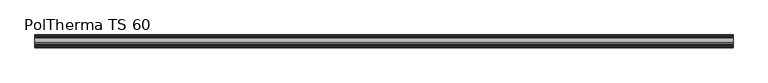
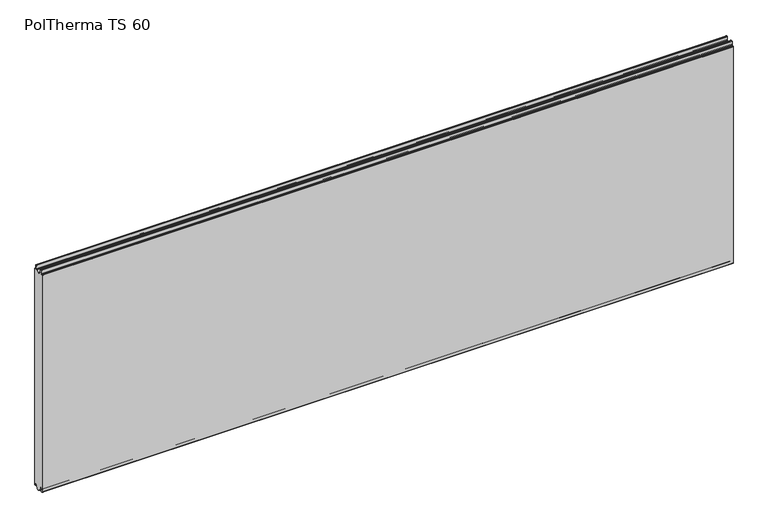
"""IFC4 building model written with IfcOpenShell, lengths in millimetres: plate geometry, Europanels_Poltherma TS_Hz : PolTherma TS 60."""

from ifc_helpers import new_model, si_unit, frame, origin, place, context, project, spatial, polyline, circle_curve, source, transform, mapped, element, save
from ifc_brep_helpers import plane_surface, cylinder_surface, revolved_surface, advanced_brep


def poltherma_ts_60_a74884d3(model_context):
    return source(origin(), model_context, "Body", "AdvancedBrep", [
        advanced_brep(
        [(1650.0, -30.0, 1096.5011047), (1650.0, -30.0, 3.4988953), (1650.0, -28.0, 1.4988953), (1650.0, -25.2751521, 1.4988953), (1650.0, -23.2780726, 3.3908514), (1650.0, -22.3165207, 21.1641379), (1650.0, -19.3209015, 24.0020721), (1650.0, -16.3793238, 24.0020721), (1650.0, -13.3842966, 21.1747334), (1650.0, -12.3477941, 3.1952985), (1650.0, -10.5507777, 1.4988953), (1650.0, -7.1267156, 1.4988953), (1650.0, 12.5267156, 1.4988953), (1650.0, 14.9895357, 1.4988953), (1650.0, 16.7366349, 3.1481762), (1650.0, 17.7718427, 21.1051522), (1650.0, 24.3282622, 21.093556), (1650.0, 25.2663769, 3.7534806), (1650.0, 30.0, 3.8814338), (1650.0, 30.0, 1096.5011047), (1650.0, 28.0, 1098.5011047), (1650.0, 26.2557869, 1098.5011047), (1650.0, 24.2596673, 1100.3765791), (1650.0, 23.1836057, 1117.6256302), (1650.0, 20.8891901, 1119.5129093), (1650.0, 18.8727407, 1117.5838246), (1650.0, 18.1120505, 1100.4152514), (1650.0, 16.113894, 1098.5011047), (1650.0, 13.3234285, 1098.5011047), (1650.0, -7.9234285, 1098.5011047), (1650.0, -11.9117672, 1098.5011047), (1650.0, -13.7101357, 1100.2244834), (1650.0, -14.4498501, 1117.5862394), (1650.0, -16.4480373, 1119.5011047), (1650.0, -19.1874198, 1119.5011047), (1650.0, -21.1836192, 1117.624345), (1650.0, -22.2483736, 1100.3778643), (1650.0, -24.244573, 1098.5011047), (1650.0, -28.0, 1098.5011047), (-1650.0, -30.0, 1096.5011047), (-1650.0, -28.0, 1098.5011047), (-1650.0, -24.244573, 1098.5011047), (-1650.0, -22.2483736, 1100.3778643), (-1650.0, -21.1836192, 1117.624345), (-1650.0, -19.1874198, 1119.5011047), (-1650.0, -16.4480373, 1119.5011047), (-1650.0, -14.4498501, 1117.5862394), (-1650.0, -13.7101357, 1100.2244834), (-1650.0, -11.9117672, 1098.5011047), (-1650.0, -7.9234285, 1098.5011047), (-1650.0, 13.3234285, 1098.5011047), (-1650.0, 16.113894, 1098.5011047), (-1650.0, 18.1120505, 1100.4152514), (-1650.0, 18.8727407, 1117.5838246), (-1650.0, 20.8891901, 1119.5129093), (-1650.0, 23.1349611, 1117.6366155), (-1650.0, 24.2596673, 1100.3765791), (-1650.0, 26.2557869, 1098.5011047), (-1650.0, 28.0, 1098.5011047), (-1650.0, 30.0, 1096.5011047), (-1650.0, 30.0, 3.8814338), (-1650.0, 25.2663769, 3.7534806), (-1650.0, 24.3282622, 21.093556), (-1650.0, 17.7718427, 21.1051522), (-1650.0, 16.7366349, 3.1481762), (-1650.0, 14.9895357, 1.4988953), (-1650.0, 12.5267156, 1.4988953), (-1650.0, -7.1267156, 1.4988953), (-1650.0, -10.5507777, 1.4988953), (-1650.0, -12.3477941, 3.1952985), (-1650.0, -13.3842966, 21.1747334), (-1650.0, -16.3793238, 24.0020721), (-1650.0, -19.3209015, 24.0020721), (-1650.0, -22.3165207, 21.1641379), (-1650.0, -23.2780726, 3.3908514), (-1650.0, -25.2751521, 1.4988953), (-1650.0, -28.0, 1.4988953), (-1650.0, -30.0, 3.4988953)],
        [
            (0, 1),
            (1, 2, circle_curve(frame((1650.0, -28.0, 3.4988953), z_axis=(1.0, 0.0, 0.0), x_axis=(0.0, 1.0, 0.0)), 2.0)),
            (2, 3),
            (3, 4, circle_curve(frame((1650.0, -25.2751521, 3.4988953), z_axis=(1.0, 0.0, 0.0), x_axis=(0.0, 1.0, 0.0)), 2.0)),
            (4, 5),
            (5, 6, circle_curve(frame((1650.0, -19.3209015, 21.0020721), z_axis=(-1.0, 0.0, 0.0), x_axis=(0.0, 1.0, 0.0)), 3.0)),
            (6, 7),
            (7, 8, circle_curve(frame((1650.0, -16.3793238, 21.0020721), z_axis=(-1.0, 0.0, 0.0), x_axis=(0.0, 1.0, 0.0)), 3.0)),
            (8, 9),
            (9, 10, circle_curve(frame((1650.0, -10.5507777, 3.2988953), z_axis=(1.0, 0.0, 0.0), x_axis=(0.0, 1.0, 0.0)), 1.8)),
            (10, 11),
            (11, 12, circle_curve(frame((1650.0, 2.7, 3.3524487), z_axis=(1.0, 0.0, 0.0), x_axis=(0.0, 1.0, 0.0)), 10.0)),
            (12, 13),
            (13, 14, circle_curve(frame((1650.0, 14.9895357, 3.2488953), z_axis=(1.0, 0.0, 0.0), x_axis=(0.0, 1.0, 0.0)), 1.75)),
            (14, 15),
            (15, 16, circle_curve(frame((1650.0, 21.0497285, 20.9161842), z_axis=(-1.0, 0.0, 0.0), x_axis=(0.0, 1.0, 0.0)), 3.2833282)),
            (16, 17),
            (17, 18, circle_curve(frame((1650.0, 27.6314591, 3.8814338), z_axis=(1.0, 0.0, 0.0), x_axis=(0.0, 1.0, 0.0)), 2.3685409)),
            (18, 19),
            (19, 20, circle_curve(frame((1650.0, 28.0, 1096.5011047), z_axis=(1.0, 0.0, 0.0), x_axis=(0.0, 1.0, 0.0)), 2.0)),
            (20, 21),
            (21, 22, circle_curve(frame((1650.0, 26.2557869, 1100.5011047), z_axis=(-1.0, 0.0, 0.0), x_axis=(0.0, 1.0, 0.0)), 2.0)),
            (22, 23),
            (23, 24, circle_curve(frame((1650.0, 21.1234323, 1117.5111287), z_axis=(1.0, 0.0, 0.0), x_axis=(0.0, 1.0, 0.0)), 2.0154391)),
            (24, 25, circle_curve(frame((1650.0, 20.8891901, 1117.4944815), z_axis=(1.0, 0.0, 0.0), x_axis=(0.0, 1.0, 0.0)), 2.0184277)),
            (25, 26),
            (26, 27, circle_curve(frame((1650.0, 16.113894, 1100.5011047), z_axis=(-1.0, 0.0, 0.0), x_axis=(0.0, 1.0, 0.0)), 2.0)),
            (27, 28),
            (28, 29, circle_curve(frame((1650.0, 2.7, 1101.354658), z_axis=(-1.0, 0.0, 0.0), x_axis=(0.0, 1.0, 0.0)), 11.0)),
            (29, 30),
            (30, 31, circle_curve(frame((1650.0, -11.9117672, 1100.3011047), z_axis=(-1.0, 0.0, 0.0), x_axis=(0.0, 1.0, 0.0)), 1.8)),
            (31, 32),
            (32, 33, circle_curve(frame((1650.0, -16.4480373, 1117.5011047), z_axis=(1.0, 0.0, 0.0), x_axis=(0.0, 1.0, 0.0)), 2.0)),
            (33, 34),
            (34, 35, circle_curve(frame((1650.0, -19.1874198, 1117.5011047), z_axis=(1.0, 0.0, 0.0), x_axis=(0.0, 1.0, 0.0)), 2.0)),
            (35, 36),
            (36, 37, circle_curve(frame((1650.0, -24.244573, 1100.5011047), z_axis=(-1.0, 0.0, 0.0), x_axis=(0.0, 1.0, 0.0)), 2.0)),
            (37, 38),
            (38, 0, circle_curve(frame((1650.0, -28.0, 1096.5011047), z_axis=(1.0, 0.0, 0.0), x_axis=(0.0, 1.0, 0.0)), 2.0)),
            (39, 40, circle_curve(frame((-1650.0, -28.0, 1096.5011047), z_axis=(-1.0, 0.0, 0.0), x_axis=(0.0, 1.0, 0.0)), 2.0)),
            (40, 41),
            (41, 42, circle_curve(frame((-1650.0, -24.244573, 1100.5011047), z_axis=(1.0, 0.0, 0.0), x_axis=(0.0, 1.0, 0.0)), 2.0)),
            (42, 43),
            (43, 44, circle_curve(frame((-1650.0, -19.1874198, 1117.5011047), z_axis=(-1.0, 0.0, 0.0), x_axis=(0.0, 1.0, 0.0)), 2.0)),
            (44, 45),
            (45, 46, circle_curve(frame((-1650.0, -16.4480373, 1117.5011047), z_axis=(-1.0, 0.0, 0.0), x_axis=(0.0, 1.0, 0.0)), 2.0)),
            (46, 47),
            (47, 48, circle_curve(frame((-1650.0, -11.9117672, 1100.3011047), z_axis=(1.0, 0.0, 0.0), x_axis=(0.0, 1.0, 0.0)), 1.8)),
            (48, 49),
            (49, 50, circle_curve(frame((-1650.0, 2.7, 1101.354658), z_axis=(1.0, 0.0, 0.0), x_axis=(0.0, 1.0, 0.0)), 11.0)),
            (50, 51),
            (51, 52, circle_curve(frame((-1650.0, 16.113894, 1100.5011047), z_axis=(1.0, 0.0, 0.0), x_axis=(0.0, 1.0, 0.0)), 2.0)),
            (52, 53),
            (53, 54, circle_curve(frame((-1650.0, 20.8891901, 1117.4944815), z_axis=(-1.0, 0.0, 0.0), x_axis=(0.0, 1.0, 0.0)), 2.0184277)),
            (54, 55, circle_curve(frame((-1650.0, 21.1234323, 1117.5111287), z_axis=(-1.0, 0.0, 0.0), x_axis=(0.0, 1.0, 0.0)), 2.0154391)),
            (55, 56),
            (56, 57, circle_curve(frame((-1650.0, 26.2557869, 1100.5011047), z_axis=(1.0, 0.0, 0.0), x_axis=(0.0, 1.0, 0.0)), 2.0)),
            (57, 58),
            (58, 59, circle_curve(frame((-1650.0, 28.0, 1096.5011047), z_axis=(-1.0, 0.0, 0.0), x_axis=(0.0, 1.0, 0.0)), 2.0)),
            (59, 60),
            (60, 61, circle_curve(frame((-1650.0, 27.6314591, 3.8814338), z_axis=(-1.0, 0.0, 0.0), x_axis=(0.0, 1.0, 0.0)), 2.3685409)),
            (61, 62),
            (62, 63, circle_curve(frame((-1650.0, 21.0497285, 20.9161842), z_axis=(1.0, 0.0, 0.0), x_axis=(0.0, 1.0, 0.0)), 3.2833282)),
            (63, 64),
            (64, 65, circle_curve(frame((-1650.0, 14.9895357, 3.2488953), z_axis=(-1.0, 0.0, 0.0), x_axis=(0.0, 1.0, 0.0)), 1.75)),
            (65, 66),
            (66, 67, circle_curve(frame((-1650.0, 2.7, 3.3524487), z_axis=(-1.0, 0.0, 0.0), x_axis=(0.0, 1.0, 0.0)), 10.0)),
            (67, 68),
            (68, 69, circle_curve(frame((-1650.0, -10.5507777, 3.2988953), z_axis=(-1.0, 0.0, 0.0), x_axis=(0.0, 1.0, 0.0)), 1.8)),
            (69, 70),
            (70, 71, circle_curve(frame((-1650.0, -16.3793238, 21.0020721), z_axis=(1.0, 0.0, 0.0), x_axis=(0.0, 1.0, 0.0)), 3.0)),
            (71, 72),
            (72, 73, circle_curve(frame((-1650.0, -19.3209015, 21.0020721), z_axis=(1.0, 0.0, 0.0), x_axis=(0.0, 1.0, 0.0)), 3.0)),
            (73, 74),
            (74, 75, circle_curve(frame((-1650.0, -25.2751521, 3.4988953), z_axis=(-1.0, 0.0, 0.0), x_axis=(0.0, 1.0, 0.0)), 2.0)),
            (75, 76),
            (76, 77, circle_curve(frame((-1650.0, -28.0, 3.4988953), z_axis=(-1.0, 0.0, 0.0), x_axis=(0.0, 1.0, 0.0)), 2.0)),
            (77, 39),
            (0, 39),
            (77, 1),
            (76, 2),
            (75, 3),
            (74, 4),
            (73, 5),
            (72, 6),
            (71, 7),
            (70, 8),
            (69, 9),
            (68, 10),
            (67, 11),
            (66, 12),
            (65, 13),
            (64, 14),
            (63, 15),
            (62, 16),
            (61, 17),
            (60, 18),
            (59, 19),
            (58, 20),
            (57, 21),
            (56, 22),
            (55, 23),
            (54, 24),
            (53, 25),
            (52, 26),
            (51, 27),
            (50, 28),
            (49, 29),
            (48, 30),
            (47, 31),
            (46, 32),
            (45, 33),
            (44, 34),
            (43, 35),
            (42, 36),
            (41, 37),
            (40, 38),
        ],
        [
            plane_surface(frame((1650.0, -30.0, 3.4988953), z_axis=(1.0, 0.0, 0.0), x_axis=(0.0, 0.0, -1.0))),
            plane_surface(frame((-1650.0, -30.0, 3.4988953), z_axis=(-1.0, 0.0, 0.0), x_axis=(0.0, 0.0, 1.0))),
            plane_surface(frame((1650.0, -30.0, 1096.5011047), z_axis=(0.0, -1.0, 0.0), x_axis=(-1.0, 0.0, 0.0))),
            cylinder_surface(frame((-1650.0, -28.0, 3.4988953), z_axis=(1.0, 0.0, 0.0), x_axis=(0.0, 1.0, 0.0)), 2.0),
            plane_surface(frame((1650.0, -28.0, 1.4988953), z_axis=(0.0, 2.4317940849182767e-11, -1.0), x_axis=(-1.0, 0.0, 0.0))),
            cylinder_surface(frame((-1650.0, -25.2751521, 3.4988953), z_axis=(1.0, 0.0, 0.0), x_axis=(0.0, 1.0, 0.0)), 2.0),
            plane_surface(frame((1650.0, -23.2780726, 3.3908514), z_axis=(0.0, 0.9985397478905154, -0.054021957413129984), x_axis=(-1.0, 0.0, 0.0))),
            revolved_surface(polyline([(-1650.0, -16.3209015, 21.0020721), (1650.0, -16.3209015, 21.0020721)]), (-1650.0, -19.3209015, 21.0020721), (-1.0, 0.0, 0.0)),
            plane_surface(frame((1650.0, -19.3209015, 24.0020721), z_axis=(0.0, -3.679808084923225e-12, -1.0), x_axis=(-1.0, 0.0, 0.0))),
            revolved_surface(polyline([(-1650.0, -13.379323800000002, 21.0020721), (1650.0, -13.379323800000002, 21.0020721)]), (-1650.0, -16.3793238, 21.0020721), (-1.0, 0.0, 0.0)),
            plane_surface(frame((1650.0, -13.3842966, 21.1747334), z_axis=(0.0, -0.9983424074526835, -0.05755377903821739), x_axis=(-1.0, 0.0, 0.0))),
            cylinder_surface(frame((-1650.0, -10.5507777, 3.2988953), z_axis=(1.0, 0.0, 0.0), x_axis=(0.0, 1.0, 0.0)), 1.8),
            plane_surface(frame((1650.0, -10.5507777, 1.4988953), z_axis=(0.0, 7.512842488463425e-12, -1.0), x_axis=(-1.0, 0.0, 0.0))),
            cylinder_surface(frame((-1650.0, 2.7, 3.3524487), z_axis=(1.0, 0.0, 0.0), x_axis=(0.0, 1.0, 0.0)), 10.0),
            plane_surface(frame((1650.0, 12.5267156, 1.4988953), z_axis=(0.0, -5.6448534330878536e-11, -1.0), x_axis=(-1.0, 0.0, 0.0))),
            cylinder_surface(frame((-1650.0, 14.9895357, 3.2488953), z_axis=(1.0, 0.0, 0.0), x_axis=(0.0, 1.0, 0.0)), 1.75),
            plane_surface(frame((1650.0, 16.7366349, 3.1481762), z_axis=(0.0, 0.9983424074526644, -0.05755377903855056), x_axis=(-1.0, 0.0, 0.0))),
            revolved_surface(polyline([(-1650.0, 24.3330567, 20.9161842), (1650.0, 24.3330567, 20.9161842)]), (-1650.0, 21.0497285, 20.9161842), (-1.0, 0.0, 0.0)),
            plane_surface(frame((1650.0, 24.3282622, 21.093556), z_axis=(0.0, -0.9985397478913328, -0.05402195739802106), x_axis=(-1.0, 0.0, 0.0))),
            cylinder_surface(frame((-1650.0, 27.6314591, 3.8814338), z_axis=(1.0, 0.0, 0.0), x_axis=(0.0, 1.0, 0.0)), 2.3685409),
            plane_surface(frame((1650.0, 30.0, 3.8814338), z_axis=(0.0, 1.0, 0.0), x_axis=(-1.0, 0.0, 0.0))),
            cylinder_surface(frame((-1650.0, 28.0, 1096.5011047), z_axis=(1.0, 0.0, 0.0), x_axis=(0.0, 1.0, 0.0)), 2.0),
            plane_surface(frame((1650.0, 28.0, 1098.5011047), z_axis=(0.0, 1.862502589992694e-12, 1.0), x_axis=(-1.0, 0.0, 0.0))),
            revolved_surface(polyline([(-1650.0, 28.2557869, 1100.5011047), (1650.0, 28.2557869, 1100.5011047)]), (-1650.0, 26.2557869, 1100.5011047), (-1.0, 0.0, 0.0)),
            plane_surface(frame((1650.0, 24.2596673, 1100.3765791), z_axis=(0.0, 0.9980597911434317, 0.06226277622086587), x_axis=(-1.0, 0.0, 0.0))),
            cylinder_surface(frame((-1650.0, 21.1234323, 1117.5111287), z_axis=(1.0, 0.0, 0.0), x_axis=(0.0, 1.0, 0.0)), 2.0154391),
            cylinder_surface(frame((-1650.0, 20.8891901, 1117.4944815), z_axis=(1.0, 0.0, 0.0), x_axis=(0.0, 1.0, 0.0)), 2.0184277),
            plane_surface(frame((1650.0, 18.8727407, 1117.5838246), z_axis=(0.0, -0.9990198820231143, 0.04426370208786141), x_axis=(-1.0, 0.0, 0.0))),
            revolved_surface(polyline([(-1650.0, 18.113894, 1100.5011047), (1650.0, 18.113894, 1100.5011047)]), (-1650.0, 16.113894, 1100.5011047), (-1.0, 0.0, 0.0)),
            plane_surface(frame((1650.0, 16.113894, 1098.5011047), z_axis=(0.0, 0.0, 1.0), x_axis=(-1.0, 0.0, 0.0))),
            revolved_surface(polyline([(-1650.0, 13.7, 1101.354658), (1650.0, 13.7, 1101.354658)]), (-1650.0, 2.7, 1101.354658), (-1.0, 0.0, 0.0)),
            plane_surface(frame((1650.0, -7.9234285, 1098.5011047), z_axis=(0.0, 0.0, 1.0), x_axis=(-1.0, 0.0, 0.0))),
            revolved_surface(polyline([(-1650.0, -10.1117672, 1100.3011047), (1650.0, -10.1117672, 1100.3011047)]), (-1650.0, -11.9117672, 1100.3011047), (-1.0, 0.0, 0.0)),
            plane_surface(frame((1650.0, -13.7101357, 1100.2244834), z_axis=(0.0, 0.9990935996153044, 0.042567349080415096), x_axis=(-1.0, 0.0, 0.0))),
            cylinder_surface(frame((-1650.0, -16.4480373, 1117.5011047), z_axis=(1.0, 0.0, 0.0), x_axis=(0.0, 1.0, 0.0)), 2.0),
            plane_surface(frame((1650.0, -16.4480373, 1119.5011047), z_axis=(0.0, 0.0, 1.0), x_axis=(-1.0, 0.0, 0.0))),
            cylinder_surface(frame((-1650.0, -19.1874198, 1117.5011047), z_axis=(1.0, 0.0, 0.0), x_axis=(0.0, 1.0, 0.0)), 2.0),
            plane_surface(frame((1650.0, -21.1836192, 1117.624345), z_axis=(0.0, -0.9980996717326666, 0.06162016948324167), x_axis=(-1.0, 0.0, 0.0))),
            revolved_surface(polyline([(-1650.0, -22.244573, 1100.5011047), (1650.0, -22.244573, 1100.5011047)]), (-1650.0, -24.244573, 1100.5011047), (-1.0, 0.0, 0.0)),
            plane_surface(frame((1650.0, -24.244573, 1098.5011047), z_axis=(0.0, 0.0, 1.0), x_axis=(-1.0, 0.0, 0.0))),
            cylinder_surface(frame((-1650.0, -28.0, 1096.5011047), z_axis=(1.0, 0.0, 0.0), x_axis=(0.0, 1.0, 0.0)), 2.0),
        ],
        [
            (0, [[1, 2, 3, 4, 5, 6, 7, 8, 9, 10, 11, 12, 13, 14, 15, 16, 17, 18, 19, 20, 21, 22, 23, 24, 25, 26, 27, 28, 29, 30, 31, 32, 33, 34, 35, 36, 37, 38, 39]]),
            (1, [[40, 41, 42, 43, 44, 45, 46, 47, 48, 49, 50, 51, 52, 53, 54, 55, 56, 57, 58, 59, 60, 61, 62, 63, 64, 65, 66, 67, 68, 69, 70, 71, 72, 73, 74, 75, 76, 77, 78]]),
            (2, [[-1, 79, -78, 80]]),
            (3, [[-2, -80, -77, 81]]),
            (4, [[-3, -81, -76, 82]]),
            (5, [[-4, -82, -75, 83]]),
            (6, [[-5, -83, -74, 84]]),
            (7, [[-6, -84, -73, 85]]),
            (8, [[-7, -85, -72, 86]]),
            (9, [[-8, -86, -71, 87]]),
            (10, [[-9, -87, -70, 88]]),
            (11, [[-10, -88, -69, 89]]),
            (12, [[-11, -89, -68, 90]]),
            (13, [[-12, -90, -67, 91]]),
            (14, [[-13, -91, -66, 92]]),
            (15, [[-14, -92, -65, 93]]),
            (16, [[-15, -93, -64, 94]]),
            (17, [[-16, -94, -63, 95]]),
            (18, [[-17, -95, -62, 96]]),
            (19, [[-18, -96, -61, 97]]),
            (20, [[-19, -97, -60, 98]]),
            (21, [[-20, -98, -59, 99]]),
            (22, [[-21, -99, -58, 100]]),
            (23, [[-22, -100, -57, 101]]),
            (24, [[-23, -101, -56, 102]]),
            (25, [[-24, -102, -55, 103]]),
            (26, [[-25, -103, -54, 104]]),
            (27, [[-26, -104, -53, 105]]),
            (28, [[-27, -105, -52, 106]]),
            (29, [[-28, -106, -51, 107]]),
            (30, [[-29, -107, -50, 108]]),
            (31, [[-30, -108, -49, 109]]),
            (32, [[-31, -109, -48, 110]]),
            (33, [[-32, -110, -47, 111]]),
            (34, [[-33, -111, -46, 112]]),
            (35, [[-34, -112, -45, 113]]),
            (36, [[-35, -113, -44, 114]]),
            (37, [[-36, -114, -43, 115]]),
            (38, [[-37, -115, -42, 116]]),
            (39, [[-38, -116, -41, 117]]),
            (40, [[-39, -117, -40, -79]]),
        ],
    ),
    ])


if __name__ == "__main__":
    model = new_model("IFC4")
    model_context = context("Model", 3, world=origin())
    ifc_project = project(units=[si_unit("LENGTHUNIT", "METRE", prefix="MILLI")], contexts=[model_context])
    site = spatial("IfcSite", under=ifc_project)
    building = spatial("IfcBuilding", under=site)
    placement = place(None, origin())
    poltherma_ts_60_shape = poltherma_ts_60_a74884d3(model_context)
    element("IfcPlate", 1, ObjectType="Europanels_Poltherma TS_Hz : PolTherma TS 60", at=placement, inside=building, context=model_context, shape_type="MappedRepresentation", body=[
        mapped(poltherma_ts_60_shape, transform((0.0, 0.0, 0.0), x_axis=(1.0, 0.0, 0.0), y_axis=(0.0, 1.0, 0.0), z_axis=(0.0, 0.0, 1.0))),
    ])
    save(model, "model.ifc")
